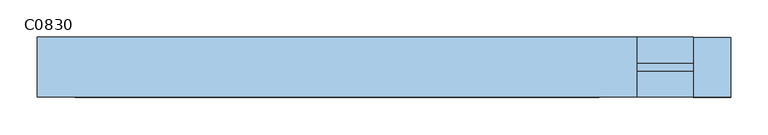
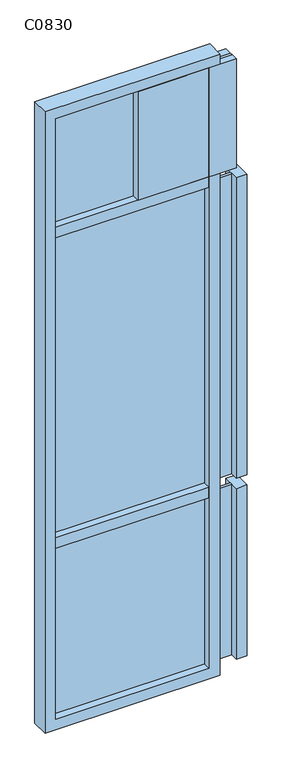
"""IFC4 building model written with IfcOpenShell, lengths in millimetres: window geometry, 组合窗 - 三层双列(平开+固定) : C0830."""

from ifc_helpers import new_model, si_unit, frame, origin, place, context, project, spatial, polyline, outline, extrude, source, transform, mapped, element, save


def c0830_0c11c58e(model_context):
    return source(origin(), model_context, "Body", "SweptSolid", [
        extrude(outline(polyline([(475.0, -10.0), (-350.0, -10.0), (-350.0, 0.0), (475.0, 0.0), (475.0, -10.0)])), frame((0.0, 0.0, 2725.0), z_axis=(0.0, 0.0, 1.0), x_axis=(1.0, 0.0, 0.0)), (0.0, 0.0, 1.0), 525.0),
        extrude(outline(polyline([(475.0, -10.0), (-350.0, -10.0), (-350.0, 0.0), (475.0, 0.0), (475.0, -10.0)])), frame((0.0, 0.0, 1225.0), z_axis=(0.0, 0.0, 1.0), x_axis=(1.0, 0.0, 0.0)), (0.0, 0.0, 1.0), 1450.0),
        extrude(outline(polyline([(475.0, -10.0), (-350.0, -10.0), (-350.0, 0.0), (475.0, 0.0), (475.0, -10.0)])), frame((0.0, 0.0, 350.0), z_axis=(0.0, 0.0, 1.0), x_axis=(1.0, 0.0, 0.0)), (0.0, 0.0, 1.0), 825.0),
        extrude(outline(polyline([(25.0, 35.0), (475.0, 35.0), (475.0, -45.0), (25.0, -45.0), (25.0, 35.0)])), frame((0.0, 0.0, 2725.0), z_axis=(0.0, 0.0, 1.0), x_axis=(1.0, 0.0, 0.0)), (0.0, 0.0, 1.0), 525.0),
        extrude(outline(polyline([(475.0, 35.0), (525.0, 35.0), (525.0, -45.0), (475.0, -45.0), (475.0, 35.0)])), frame((0.0, 0.0, 1225.0), z_axis=(0.0, 0.0, 1.0), x_axis=(1.0, 0.0, 0.0)), (0.0, 0.0, 1.0), 1450.0),
        extrude(outline(polyline([(475.0, 35.0), (525.0, 35.0), (525.0, -45.0), (475.0, -45.0), (475.0, 35.0)])), frame((0.0, 0.0, 350.0), z_axis=(0.0, 0.0, 1.0), x_axis=(1.0, 0.0, 0.0)), (0.0, 0.0, 1.0), 825.0),
        extrude(outline(polyline([(-350.0, 35.0), (350.0, 35.0), (350.0, -45.0), (-350.0, -45.0), (-350.0, 35.0)])), frame((0.0, 0.0, 2675.0), z_axis=(0.0, 0.0, 1.0), x_axis=(1.0, 0.0, 0.0)), (0.0, 0.0, 1.0), 50.0),
        extrude(outline(polyline([(-350.0, 35.0), (350.0, 35.0), (350.0, -45.0), (-350.0, -45.0), (-350.0, 35.0)])), frame((0.0, 0.0, 1175.0), z_axis=(0.0, 0.0, 1.0), x_axis=(1.0, 0.0, 0.0)), (0.0, 0.0, 1.0), 50.0),
        extrude(outline(polyline([(3300.0, -400.0), (300.0, -400.0), (300.0, 400.0), (3300.0, 400.0), (3300.0, -400.0)]), holes=[polyline([(3250.0, 350.0), (350.0, 350.0), (350.0, -350.0), (3250.0, -350.0), (3250.0, 350.0)])]), frame((0.0, -45.0, 0.0), z_axis=(0.0, 1.0, 0.0), x_axis=(0.0, 0.0, 1.0)), (0.0, 0.0, 1.0), 80.0),
    ])


if __name__ == "__main__":
    model = new_model("IFC4")
    model_context = context("Model", 3, world=origin())
    ifc_project = project(units=[si_unit("LENGTHUNIT", "METRE", prefix="MILLI")], contexts=[model_context])
    site = spatial("IfcSite", under=ifc_project)
    building = spatial("IfcBuilding", under=site)
    placement = place(None, origin())
    c0830_shape = c0830_0c11c58e(model_context)
    element("IfcWindow", 1, ObjectType="组合窗 - 三层双列(平开+固定) : C0830", at=placement, inside=building, context=model_context, shape_type="MappedRepresentation", body=[
        mapped(c0830_shape, transform((0.0, 0.0, 0.0), x_axis=(1.0, 0.0, 0.0), y_axis=(0.0, 1.0, 0.0), z_axis=(0.0, 0.0, 1.0))),
    ])
    save(model, "model.ifc")
